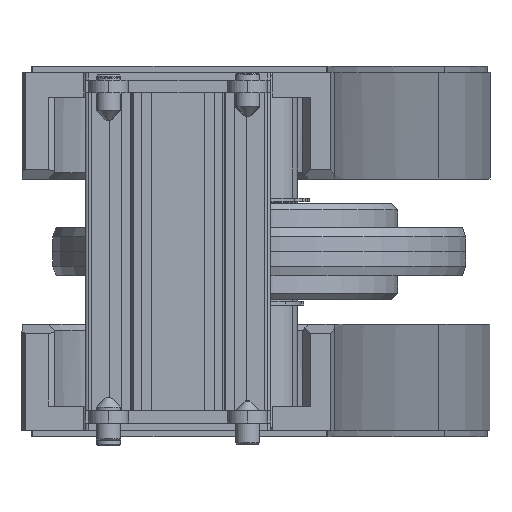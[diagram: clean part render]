
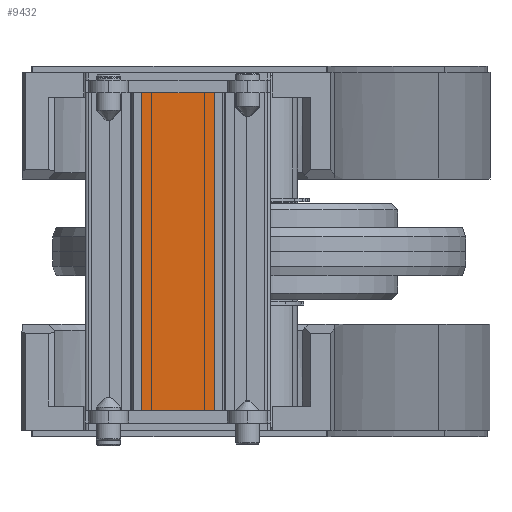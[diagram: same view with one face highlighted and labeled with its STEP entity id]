
A CAD part, left-side view. The second image highlights one B-rep face of the part: STEP entity #9432.
In plain terms, the highlighted planar face has unit normal (-1, 0, 0) as drawn and (1, 0, 0) by its records, which use the part's own axes.
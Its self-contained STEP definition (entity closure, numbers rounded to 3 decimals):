
#46 = LINE ( 'NONE', #9434, #13319 ) ;
#304 = VERTEX_POINT ( 'NONE', #16733 ) ;
#1152 = ORIENTED_EDGE ( 'NONE', *, *, #3815, .T. ) ;
#1729 = CARTESIAN_POINT ( 'NONE',  ( 15., 26.85, 103. ) ) ;
#2342 = LINE ( 'NONE', #15484, #6284 ) ;
#2991 = DIRECTION ( 'NONE',  ( 0., 0., -1. ) ) ;
#3103 = CARTESIAN_POINT ( 'NONE',  ( 15., 3.15, 103. ) ) ;
#3192 = EDGE_CURVE ( 'NONE', #3280, #16445, #5268, .T. ) ;
#3203 = VECTOR ( 'NONE', #16065, 1000. ) ;
#3280 = VERTEX_POINT ( 'NONE', #3103 ) ;
#3490 = ORIENTED_EDGE ( 'NONE', *, *, #3192, .T. ) ;
#3815 = EDGE_CURVE ( 'NONE', #16445, #304, #46, .T. ) ;
#4195 = FACE_OUTER_BOUND ( 'NONE', #9701, .T. ) ;
#5257 = CARTESIAN_POINT ( 'NONE',  ( 15., 3.15, 0. ) ) ;
#5268 = LINE ( 'NONE', #10911, #11874 ) ;
#5519 = ORIENTED_EDGE ( 'NONE', *, *, #8352, .F. ) ;
#6284 = VECTOR ( 'NONE', #16818, 1000. ) ;
#6592 = CARTESIAN_POINT ( 'NONE',  ( 15., 26.85, 103. ) ) ;
#7923 = DIRECTION ( 'NONE',  ( 0., 0., 1. ) ) ;
#8352 = EDGE_CURVE ( 'NONE', #3280, #16056, #10232, .T. ) ;
#9288 = EDGE_CURVE ( 'NONE', #16056, #304, #2342, .T. ) ;
#9432 = ADVANCED_FACE ( 'NONE', ( #4195 ), #13190, .F. ) ;
#9434 = CARTESIAN_POINT ( 'NONE',  ( 15., 26.85, 0. ) ) ;
#9701 = EDGE_LOOP ( 'NONE', ( #1152, #11233, #5519, #3490 ) ) ;
#10232 = LINE ( 'NONE', #14747, #3203 ) ;
#10771 = DIRECTION ( 'NONE',  ( 0., 1., 0. ) ) ;
#10911 = CARTESIAN_POINT ( 'NONE',  ( 15., 3.15, 103. ) ) ;
#11233 = ORIENTED_EDGE ( 'NONE', *, *, #9288, .F. ) ;
#11874 = VECTOR ( 'NONE', #2991, 1000. ) ;
#13190 = PLANE ( 'NONE',  #13219 ) ;
#13219 = AXIS2_PLACEMENT_3D ( 'NONE', #6592, #15820, #7923 ) ;
#13319 = VECTOR ( 'NONE', #10771, 1000. ) ;
#14747 = CARTESIAN_POINT ( 'NONE',  ( 15., 26.85, 103. ) ) ;
#15484 = CARTESIAN_POINT ( 'NONE',  ( 15., 26.85, 103. ) ) ;
#15820 = DIRECTION ( 'NONE',  ( -1., 0., 0. ) ) ;
#16056 = VERTEX_POINT ( 'NONE', #1729 ) ;
#16065 = DIRECTION ( 'NONE',  ( 0., 1., 0. ) ) ;
#16445 = VERTEX_POINT ( 'NONE', #5257 ) ;
#16733 = CARTESIAN_POINT ( 'NONE',  ( 15., 26.85, 0. ) ) ;
#16818 = DIRECTION ( 'NONE',  ( 0., 0., -1. ) ) ;
